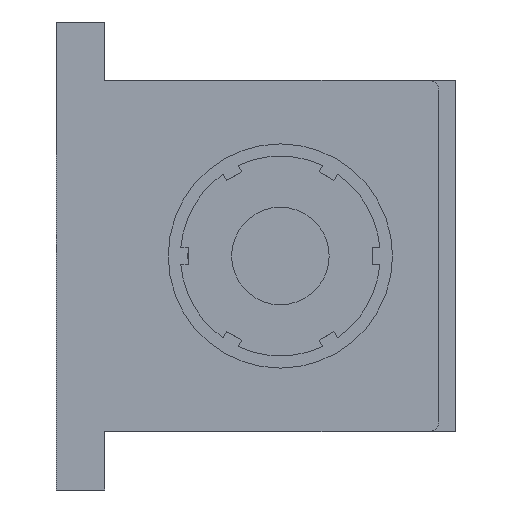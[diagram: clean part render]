
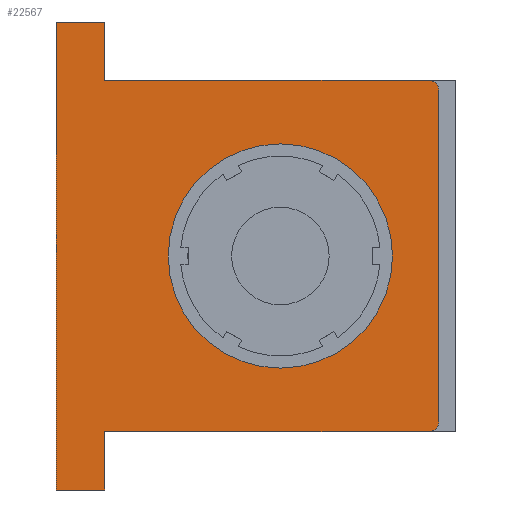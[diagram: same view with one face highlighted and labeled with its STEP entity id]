
A CAD part, front view. The second image highlights one B-rep face of the part: STEP entity #22567.
In plain terms, the highlighted planar face has unit normal (0, -1, 0) as drawn and (0, 0, 1) by its records, which use the part's own axes.
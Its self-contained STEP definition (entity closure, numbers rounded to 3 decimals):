
#198 = CARTESIAN_POINT ( 'NONE',  ( -240., -230., 900. ) ) ;
#436 = DIRECTION ( 'NONE',  ( -1., 0., 0. ) ) ;
#761 = AXIS2_PLACEMENT_3D ( 'NONE', #1654, #17828, #6409 ) ;
#986 = CARTESIAN_POINT ( 'NONE',  ( -162.5, -180., 900. ) ) ;
#1575 = VERTEX_POINT ( 'NONE', #25666 ) ;
#1654 = CARTESIAN_POINT ( 'NONE',  ( 0., 0., 900. ) ) ;
#2287 = VECTOR ( 'NONE', #21428, 1000. ) ;
#2758 = ORIENTED_EDGE ( 'NONE', *, *, #28214, .F. ) ;
#3003 = VERTEX_POINT ( 'NONE', #20496 ) ;
#3358 = DIRECTION ( 'NONE',  ( 0., 0., 1. ) ) ;
#3744 = EDGE_CURVE ( 'NONE', #16199, #12355, #20692, .T. ) ;
#4133 = VECTOR ( 'NONE', #25098, 1000. ) ;
#5164 = AXIS2_PLACEMENT_3D ( 'NONE', #24716, #15395, #13217 ) ;
#5255 = AXIS2_PLACEMENT_3D ( 'NONE', #27221, #17910, #29414 ) ;
#5377 = CIRCLE ( 'NONE', #10830, 10. ) ;
#5406 = CARTESIAN_POINT ( 'NONE',  ( -180., 152.5, 900. ) ) ;
#5442 = CIRCLE ( 'NONE', #761, 115. ) ;
#5772 = DIRECTION ( 'NONE',  ( 0., -1., 0. ) ) ;
#6024 = VECTOR ( 'NONE', #13414, 1000. ) ;
#6171 = EDGE_CURVE ( 'NONE', #19792, #16624, #21967, .T. ) ;
#6227 = ORIENTED_EDGE ( 'NONE', *, *, #22900, .T. ) ;
#6409 = DIRECTION ( 'NONE',  ( 1., 0., 0. ) ) ;
#7690 = VERTEX_POINT ( 'NONE', #5406 ) ;
#8265 = CARTESIAN_POINT ( 'NONE',  ( -240., -180., 900. ) ) ;
#8587 = ORIENTED_EDGE ( 'NONE', *, *, #6171, .T. ) ;
#9114 = CIRCLE ( 'NONE', #26909, 10. ) ;
#9594 = EDGE_LOOP ( 'NONE', ( #8587, #24718, #29222, #20564, #16728, #10002, #6227, #10740, #12031, #23346 ) ) ;
#9749 = CARTESIAN_POINT ( 'NONE',  ( -170., 162.5, 900. ) ) ;
#9820 = DIRECTION ( 'NONE',  ( -1., 0., 0. ) ) ;
#10002 = ORIENTED_EDGE ( 'NONE', *, *, #3744, .T. ) ;
#10200 = DIRECTION ( 'NONE',  ( 1., 0., 0. ) ) ;
#10740 = ORIENTED_EDGE ( 'NONE', *, *, #20490, .T. ) ;
#10822 = CARTESIAN_POINT ( 'NONE',  ( 180., 152.5, 900. ) ) ;
#10830 = AXIS2_PLACEMENT_3D ( 'NONE', #21708, #3358, #10200 ) ;
#10979 = VECTOR ( 'NONE', #28937, 1000. ) ;
#11524 = VERTEX_POINT ( 'NONE', #9749 ) ;
#12011 = EDGE_CURVE ( 'NONE', #11524, #7690, #5377, .T. ) ;
#12031 = ORIENTED_EDGE ( 'NONE', *, *, #24694, .T. ) ;
#12276 = FACE_BOUND ( 'NONE', #19162, .T. ) ;
#12355 = VERTEX_POINT ( 'NONE', #18610 ) ;
#12559 = VERTEX_POINT ( 'NONE', #18801 ) ;
#12566 = LINE ( 'NONE', #20611, #24278 ) ;
#13011 = VECTOR ( 'NONE', #5772, 1000. ) ;
#13217 = DIRECTION ( 'NONE',  ( 1., 0., 0. ) ) ;
#13414 = DIRECTION ( 'NONE',  ( 0., -1., 0. ) ) ;
#13726 = LINE ( 'NONE', #8265, #13011 ) ;
#13739 = EDGE_CURVE ( 'NONE', #7690, #16199, #20236, .T. ) ;
#14316 = CARTESIAN_POINT ( 'NONE',  ( 240., -180., 900. ) ) ;
#14419 = FACE_OUTER_BOUND ( 'NONE', #9594, .T. ) ;
#15339 = EDGE_CURVE ( 'NONE', #3003, #11524, #15800, .T. ) ;
#15395 = DIRECTION ( 'NONE',  ( 0., 0., 1. ) ) ;
#15632 = PLANE ( 'NONE',  #5255 ) ;
#15800 = LINE ( 'NONE', #17073, #2287 ) ;
#16199 = VERTEX_POINT ( 'NONE', #22354 ) ;
#16507 = CARTESIAN_POINT ( 'NONE',  ( 240., -180., 900. ) ) ;
#16624 = VERTEX_POINT ( 'NONE', #10822 ) ;
#16652 = CIRCLE ( 'NONE', #5164, 115. ) ;
#16728 = ORIENTED_EDGE ( 'NONE', *, *, #13739, .T. ) ;
#17073 = CARTESIAN_POINT ( 'NONE',  ( -180., 162.5, 900. ) ) ;
#17808 = DIRECTION ( 'NONE',  ( 1., 0., 0. ) ) ;
#17828 = DIRECTION ( 'NONE',  ( 0., 0., 1. ) ) ;
#17910 = DIRECTION ( 'NONE',  ( 0., 0., 1. ) ) ;
#18448 = VERTEX_POINT ( 'NONE', #14316 ) ;
#18610 = CARTESIAN_POINT ( 'NONE',  ( -240., -180., 900. ) ) ;
#18801 = CARTESIAN_POINT ( 'NONE',  ( 240., -230., 900. ) ) ;
#19162 = EDGE_LOOP ( 'NONE', ( #2758, #20811 ) ) ;
#19547 = VERTEX_POINT ( 'NONE', #24056 ) ;
#19792 = VERTEX_POINT ( 'NONE', #22834 ) ;
#19808 = CARTESIAN_POINT ( 'NONE',  ( 180., 162.5, 900. ) ) ;
#19913 = EDGE_CURVE ( 'NONE', #18448, #19792, #25167, .T. ) ;
#20236 = LINE ( 'NONE', #26988, #6024 ) ;
#20490 = EDGE_CURVE ( 'NONE', #1575, #12559, #24757, .T. ) ;
#20496 = CARTESIAN_POINT ( 'NONE',  ( 170., 162.5, 900. ) ) ;
#20564 = ORIENTED_EDGE ( 'NONE', *, *, #12011, .T. ) ;
#20611 = CARTESIAN_POINT ( 'NONE',  ( 240., -230., 900. ) ) ;
#20692 = LINE ( 'NONE', #986, #24578 ) ;
#20811 = ORIENTED_EDGE ( 'NONE', *, *, #24476, .F. ) ;
#20885 = EDGE_CURVE ( 'NONE', #16624, #3003, #9114, .T. ) ;
#21428 = DIRECTION ( 'NONE',  ( -1., 0., 0. ) ) ;
#21708 = CARTESIAN_POINT ( 'NONE',  ( -170., 152.5, 900. ) ) ;
#21967 = LINE ( 'NONE', #19808, #10979 ) ;
#22354 = CARTESIAN_POINT ( 'NONE',  ( -180., -180., 900. ) ) ;
#22446 = CARTESIAN_POINT ( 'NONE',  ( 170., 152.5, 900. ) ) ;
#22567 = ADVANCED_FACE ( 'NONE', ( #14419, #12276 ), #15632, .T. ) ;
#22834 = CARTESIAN_POINT ( 'NONE',  ( 180., -180., 900. ) ) ;
#22900 = EDGE_CURVE ( 'NONE', #12355, #1575, #13726, .T. ) ;
#23346 = ORIENTED_EDGE ( 'NONE', *, *, #19913, .T. ) ;
#24056 = CARTESIAN_POINT ( 'NONE',  ( -115., 0., 900. ) ) ;
#24278 = VECTOR ( 'NONE', #24957, 1000. ) ;
#24446 = VECTOR ( 'NONE', #436, 1000. ) ;
#24476 = EDGE_CURVE ( 'NONE', #29070, #19547, #5442, .T. ) ;
#24578 = VECTOR ( 'NONE', #9820, 1000. ) ;
#24694 = EDGE_CURVE ( 'NONE', #12559, #18448, #12566, .T. ) ;
#24716 = CARTESIAN_POINT ( 'NONE',  ( 0., 0., 900. ) ) ;
#24718 = ORIENTED_EDGE ( 'NONE', *, *, #20885, .T. ) ;
#24757 = LINE ( 'NONE', #198, #4133 ) ;
#24957 = DIRECTION ( 'NONE',  ( 0., 1., 0. ) ) ;
#25098 = DIRECTION ( 'NONE',  ( 1., 0., 0. ) ) ;
#25167 = LINE ( 'NONE', #16507, #24446 ) ;
#25666 = CARTESIAN_POINT ( 'NONE',  ( -240., -230., 900. ) ) ;
#26909 = AXIS2_PLACEMENT_3D ( 'NONE', #22446, #28922, #17808 ) ;
#26988 = CARTESIAN_POINT ( 'NONE',  ( -180., -180., 900. ) ) ;
#27221 = CARTESIAN_POINT ( 'NONE',  ( 0., 0., 900. ) ) ;
#27449 = CARTESIAN_POINT ( 'NONE',  ( 115., 0., 900. ) ) ;
#28214 = EDGE_CURVE ( 'NONE', #19547, #29070, #16652, .T. ) ;
#28922 = DIRECTION ( 'NONE',  ( 0., 0., 1. ) ) ;
#28937 = DIRECTION ( 'NONE',  ( 0., 1., 0. ) ) ;
#29070 = VERTEX_POINT ( 'NONE', #27449 ) ;
#29222 = ORIENTED_EDGE ( 'NONE', *, *, #15339, .T. ) ;
#29414 = DIRECTION ( 'NONE',  ( 1., 0., 0. ) ) ;
